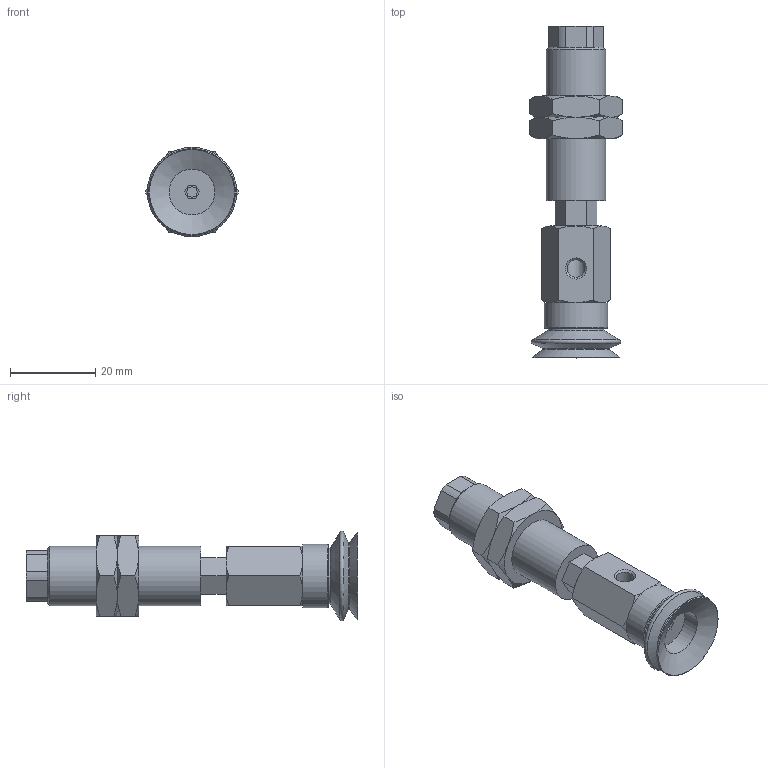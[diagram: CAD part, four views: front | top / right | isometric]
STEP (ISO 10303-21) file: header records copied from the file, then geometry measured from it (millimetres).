
FILE_DESCRIPTION(('STEP AP203'),'1');
FILE_NAME('.stp','2025-04-24T06:53:41',(' '),(' '),'Spatial InterOp 3D',' ',' ');
FILE_SCHEMA(('CONFIG_CONTROL_DESIGN'));
Length unit declared in the file: millimetre
Products named in the file (7): BNABPJYH-20-6-※; Adapter-20-NAPJ; CONNECTOR_H-20-6; NAPJH-20-6-NUT; NAPJTH-20-6-FBODY; NAPJTH-20-6-MBODY; BPJG-20-※
Assembly tree (7 placements, depth 2):
  BNABPJYH-20-6-※
    Adapter-20-NAPJ
    CONNECTOR_H-20-6
    NAPJH-20-6-NUT  x2
    NAPJTH-20-6-FBODY
    NAPJTH-20-6-MBODY
    BPJG-20-※
Bounding box: 21.94 x 78 x 21 mm (x, y, z)
Volume: 12715.5 mm3; surface area: 10262 mm2
Topology: 7 solids, 7 shells, 153 faces, 340 edges, 209 vertices
Faces by surface type: plane 72, cone 54, cylinder 20, torus 7
Full cylindrical faces by diameter (mm): 2.5 x1, 3 x1, 4.134 x3, 4.6 x1, 5 x2, 10.8 x1, 11 x1, 13.188 x2, 14 x1, 15 x1
Entity records: 3982 total; most frequent: CARTESIAN_POINT 928, DIRECTION 562, ORIENTED_EDGE 500, EDGE_CURVE 250, AXIS2_PLACEMENT_3D 226, EDGE_LOOP 184, VERTEX_POINT 174, FACE_OUTER_BOUND 150
